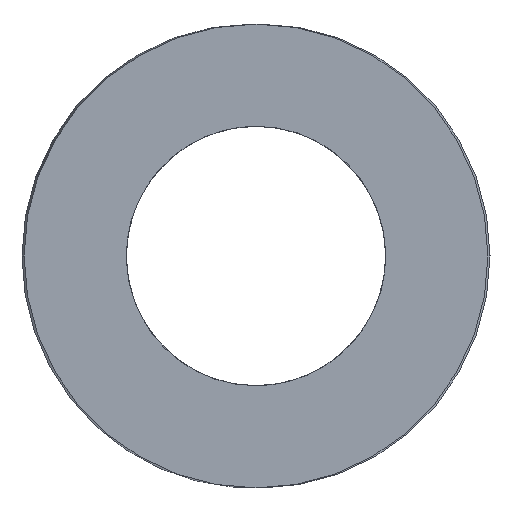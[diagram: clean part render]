
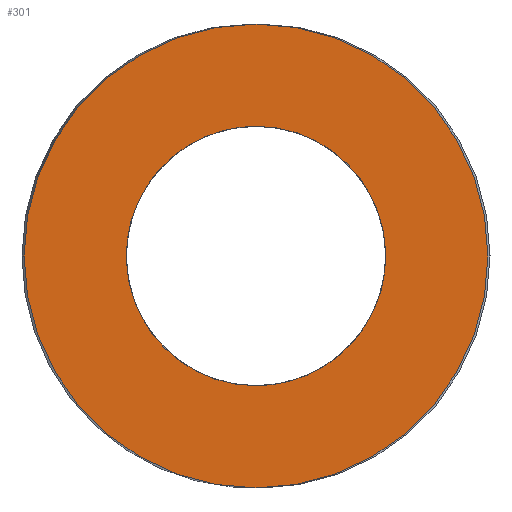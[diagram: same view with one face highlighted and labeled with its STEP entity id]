
A CAD part, left-side view. The second image highlights one B-rep face of the part: STEP entity #301.
In plain terms, the highlighted planar face has unit normal (-1, 0, 0).
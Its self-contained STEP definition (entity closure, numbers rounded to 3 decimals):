
#63=CARTESIAN_POINT('Vertex',(0.,12.25,0.)) ;
#77=CARTESIAN_POINT('Vertex',(0.,-12.25,0.)) ;
#80=CARTESIAN_POINT('Axis2P3D Location',(0.,0.,0.)) ;
#97=CARTESIAN_POINT('Axis2P3D Location',(0.,0.,0.)) ;
#232=CARTESIAN_POINT('Axis2P3D Location',(0.,6.125,0.)) ;
#242=CARTESIAN_POINT('Control Point',(0.,0.,-6.85)) ;
#243=CARTESIAN_POINT('Control Point',(0.,0.641,-6.85)) ;
#244=CARTESIAN_POINT('Control Point',(0.,1.282,-6.775)) ;
#245=CARTESIAN_POINT('Control Point',(0.,1.912,-6.625)) ;
#246=CARTESIAN_POINT('Control Point',(0.,3.124,-6.181)) ;
#247=CARTESIAN_POINT('Control Point',(0.,4.2,-5.468)) ;
#248=CARTESIAN_POINT('Control Point',(0.,4.694,-5.051)) ;
#249=CARTESIAN_POINT('Control Point',(0.,5.576,-4.107)) ;
#250=CARTESIAN_POINT('Control Point',(0.,6.215,-2.986)) ;
#251=CARTESIAN_POINT('Control Point',(0.,6.468,-2.39)) ;
#252=CARTESIAN_POINT('Control Point',(0.,6.829,-1.151)) ;
#253=CARTESIAN_POINT('Control Point',(0.,6.894,0.139)) ;
#254=CARTESIAN_POINT('Control Point',(0.,6.851,0.784)) ;
#255=CARTESIAN_POINT('Control Point',(0.,6.614,2.053)) ;
#256=CARTESIAN_POINT('Control Point',(0.,6.09,3.233)) ;
#257=CARTESIAN_POINT('Control Point',(0.,5.76,3.79)) ;
#258=CARTESIAN_POINT('Control Point',(0.,4.977,4.816)) ;
#259=CARTESIAN_POINT('Control Point',(0.,3.977,5.633)) ;
#260=CARTESIAN_POINT('Control Point',(0.,3.432,5.981)) ;
#261=CARTESIAN_POINT('Control Point',(0.,2.436,6.462)) ;
#262=CARTESIAN_POINT('Control Point',(0.,1.368,6.735)) ;
#263=CARTESIAN_POINT('Control Point',(0.,0.915,6.812)) ;
#264=CARTESIAN_POINT('Control Point',(0.,0.457,6.85)) ;
#265=CARTESIAN_POINT('Control Point',(0.,0.,6.85)) ;
#266=CARTESIAN_POINT('Vertex',(0.,0.,-6.85)) ;
#268=CARTESIAN_POINT('Vertex',(0.,0.,6.85)) ;
#272=CARTESIAN_POINT('Control Point',(0.,0.,6.85)) ;
#273=CARTESIAN_POINT('Control Point',(0.,-0.641,6.85)) ;
#274=CARTESIAN_POINT('Control Point',(0.,-1.282,6.775)) ;
#275=CARTESIAN_POINT('Control Point',(0.,-1.912,6.625)) ;
#276=CARTESIAN_POINT('Control Point',(0.,-3.124,6.181)) ;
#277=CARTESIAN_POINT('Control Point',(0.,-4.2,5.468)) ;
#278=CARTESIAN_POINT('Control Point',(0.,-4.694,5.051)) ;
#279=CARTESIAN_POINT('Control Point',(0.,-5.576,4.107)) ;
#280=CARTESIAN_POINT('Control Point',(0.,-6.215,2.986)) ;
#281=CARTESIAN_POINT('Control Point',(0.,-6.468,2.39)) ;
#282=CARTESIAN_POINT('Control Point',(0.,-6.829,1.151)) ;
#283=CARTESIAN_POINT('Control Point',(0.,-6.894,-0.139)) ;
#284=CARTESIAN_POINT('Control Point',(0.,-6.851,-0.784)) ;
#285=CARTESIAN_POINT('Control Point',(0.,-6.614,-2.053)) ;
#286=CARTESIAN_POINT('Control Point',(0.,-6.09,-3.233)) ;
#287=CARTESIAN_POINT('Control Point',(0.,-5.76,-3.79)) ;
#288=CARTESIAN_POINT('Control Point',(0.,-4.977,-4.816)) ;
#289=CARTESIAN_POINT('Control Point',(0.,-3.977,-5.633)) ;
#290=CARTESIAN_POINT('Control Point',(0.,-3.432,-5.981)) ;
#291=CARTESIAN_POINT('Control Point',(0.,-2.436,-6.462)) ;
#292=CARTESIAN_POINT('Control Point',(0.,-1.368,-6.735)) ;
#293=CARTESIAN_POINT('Control Point',(0.,-0.915,-6.812)) ;
#294=CARTESIAN_POINT('Control Point',(0.,-0.457,-6.85)) ;
#295=CARTESIAN_POINT('Control Point',(0.,0.,-6.85)) ;
#81=DIRECTION('Axis2P3D Direction',(1.,-0.,0.)) ;
#98=DIRECTION('Axis2P3D Direction',(1.,-0.,0.)) ;
#233=DIRECTION('Axis2P3D Direction',(-1.,0.,0.)) ;
#234=DIRECTION('Axis2P3D XDirection',(0.,1.,0.)) ;
#82=AXIS2_PLACEMENT_3D('Circle Axis2P3D',#80,#81,$) ;
#99=AXIS2_PLACEMENT_3D('Circle Axis2P3D',#97,#98,$) ;
#235=AXIS2_PLACEMENT_3D('Plane Axis2P3D',#232,#233,#234) ;
#238=ORIENTED_EDGE('',*,*,#84,.T.) ;
#239=ORIENTED_EDGE('',*,*,#101,.T.) ;
#298=ORIENTED_EDGE('',*,*,#270,.T.) ;
#299=ORIENTED_EDGE('',*,*,#296,.T.) ;
#300=FACE_BOUND('',#297,.T.) ;
#301=ADVANCED_FACE('392-B25-076',(#240,#300),#236,.T.) ;
#241=B_SPLINE_CURVE_WITH_KNOTS('',5,(#242,#243,#244,#245,#246,#247,#248,#249,#250,#251,#252,#253,#254,#255,#256,#257,#258,#259,#260,#261,#262,#263,#264,#265),.UNSPECIFIED.,.F.,.U.,(6,3,3,3,3,3,3,6),(0.,4.533,9.066,13.6,18.133,22.666,27.199,30.433),.UNSPECIFIED.) ;
#271=B_SPLINE_CURVE_WITH_KNOTS('',5,(#272,#273,#274,#275,#276,#277,#278,#279,#280,#281,#282,#283,#284,#285,#286,#287,#288,#289,#290,#291,#292,#293,#294,#295),.UNSPECIFIED.,.F.,.U.,(6,3,3,3,3,3,3,6),(0.,4.533,9.066,13.6,18.133,22.666,27.199,30.433),.UNSPECIFIED.) ;
#83=CIRCLE('generated circle',#82,12.25) ;
#100=CIRCLE('generated circle',#99,12.25) ;
#84=EDGE_CURVE('',#64,#78,#83,.F.) ;
#101=EDGE_CURVE('',#78,#64,#100,.F.) ;
#270=EDGE_CURVE('',#267,#269,#241,.T.) ;
#296=EDGE_CURVE('',#269,#267,#271,.T.) ;
#237=EDGE_LOOP('',(#238,#239)) ;
#297=EDGE_LOOP('',(#298,#299)) ;
#240=FACE_OUTER_BOUND('',#237,.T.) ;
#236=PLANE('Plane',#235) ;
#64=VERTEX_POINT('',#63) ;
#78=VERTEX_POINT('',#77) ;
#267=VERTEX_POINT('',#266) ;
#269=VERTEX_POINT('',#268) ;
